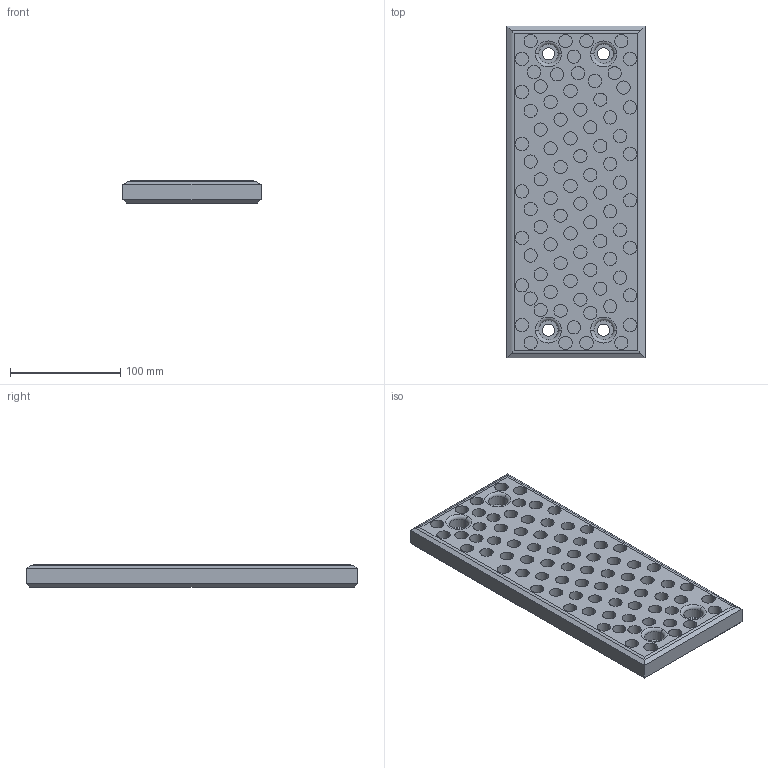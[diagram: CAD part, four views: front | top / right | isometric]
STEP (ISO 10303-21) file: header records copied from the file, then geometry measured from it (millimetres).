
FILE_DESCRIPTION (( 'STEP AP214' ), '1' );
FILE_NAME ('SW224-02-125x300.STEP', '2020-10-19T08:05:19', ( 'August' ), ( '' ), 'SwSTEP 2.0', 'SolidWorks 2018', '' );
FILE_SCHEMA (( 'AUTOMOTIVE_DESIGN' ));
Length unit declared in the file: millimetre
Products named in the file (1): SW224-02-125x300
Bounding box: 125 x 300 x 20 mm (x, y, z)
Volume: 640610.6 mm3; surface area: 119341.3 mm2
Topology: 1 solids, 1 shells, 286 faces, 580 edges, 380 vertices
Faces by surface type: cylinder 180, plane 98, torus 8
Entity records: 8267 total; most frequent: DIRECTION 1510, CARTESIAN_POINT 1330, ORIENTED_EDGE 1160, AXIS2_PLACEMENT_3D 655, EDGE_CURVE 580, VERTEX_POINT 380, EDGE_LOOP 378, CIRCLE 368
